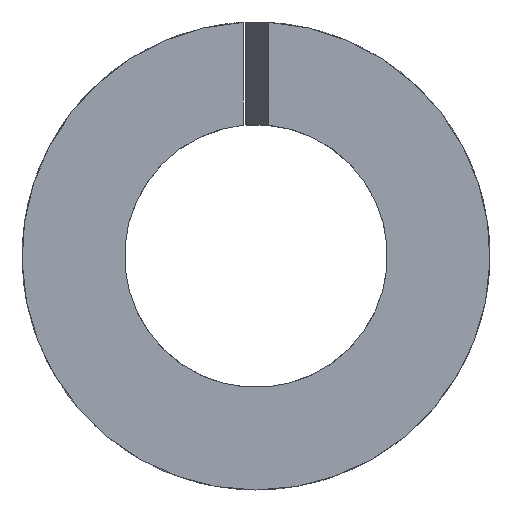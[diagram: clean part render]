
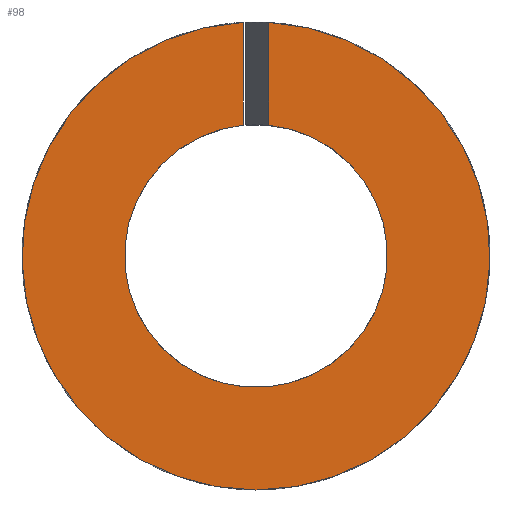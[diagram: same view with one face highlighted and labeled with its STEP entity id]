
A CAD part, left-side view. The second image highlights one B-rep face of the part: STEP entity #98.
In plain terms, the highlighted planar face has unit normal (-1, 0, 0).
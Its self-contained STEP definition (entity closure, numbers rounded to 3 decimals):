
#19=CIRCLE('',#132,4.1);
#20=CIRCLE('',#134,7.3);
#26=FACE_OUTER_BOUND('',#32,.T.);
#32=EDGE_LOOP('',(#85,#86,#87,#88));
#34=LINE('',#179,#38);
#35=LINE('',#185,#39);
#38=VECTOR('',#145,10.);
#39=VECTOR('',#150,10.);
#46=VERTEX_POINT('',#173);
#48=VERTEX_POINT('',#177);
#49=VERTEX_POINT('',#181);
#51=VERTEX_POINT('',#184);
#56=EDGE_CURVE('',#46,#48,#34,.T.);
#58=EDGE_CURVE('',#51,#49,#35,.T.);
#63=EDGE_CURVE('',#49,#46,#19,.T.);
#64=EDGE_CURVE('',#48,#51,#20,.T.);
#85=ORIENTED_EDGE('',*,*,#58,.T.);
#86=ORIENTED_EDGE('',*,*,#63,.T.);
#87=ORIENTED_EDGE('',*,*,#56,.T.);
#88=ORIENTED_EDGE('',*,*,#64,.T.);
#92=PLANE('',#135);
#98=ADVANCED_FACE('',(#26),#92,.T.);
#132=AXIS2_PLACEMENT_3D('',#193,#162,#163);
#134=AXIS2_PLACEMENT_3D('',#195,#166,#167);
#135=AXIS2_PLACEMENT_3D('',#196,#168,#169);
#145=DIRECTION('',(0.,0.,1.));
#150=DIRECTION('',(0.,0.,-1.));
#162=DIRECTION('center_axis',(1.,0.,0.));
#163=DIRECTION('ref_axis',(0.,-1.,0.));
#166=DIRECTION('center_axis',(-1.,0.,0.));
#167=DIRECTION('ref_axis',(0.,-1.,0.));
#168=DIRECTION('center_axis',(-1.,0.,0.));
#169=DIRECTION('ref_axis',(0.,0.,1.));
#173=CARTESIAN_POINT('',(0.,0.4,4.08));
#177=CARTESIAN_POINT('',(0.,0.4,7.289));
#179=CARTESIAN_POINT('',(0.,0.4,0.));
#181=CARTESIAN_POINT('',(0.,-0.4,4.08));
#184=CARTESIAN_POINT('',(0.,-0.4,7.289));
#185=CARTESIAN_POINT('',(0.,-0.4,0.));
#193=CARTESIAN_POINT('Origin',(0.,0.,0.));
#195=CARTESIAN_POINT('Origin',(0.,0.,0.));
#196=CARTESIAN_POINT('Origin',(0.,0.,0.));
